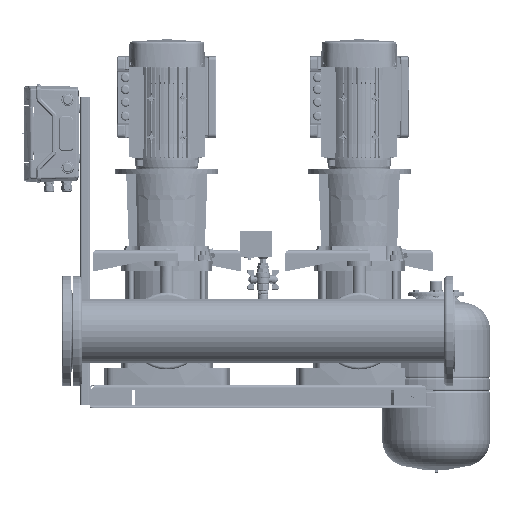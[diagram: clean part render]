
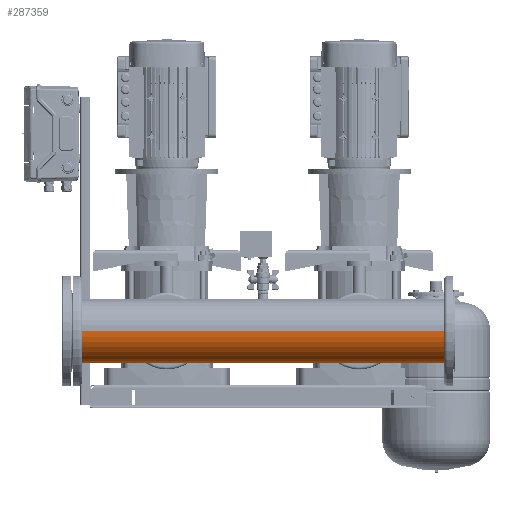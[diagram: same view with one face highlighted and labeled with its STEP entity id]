
A CAD part, front view. The second image highlights one B-rep face of the part: STEP entity #287359.
In plain terms, the highlighted cylindrical face has radius 84.15 mm (diameter 168.3 mm), a partial arc.
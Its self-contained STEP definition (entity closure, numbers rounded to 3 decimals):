
#286915=CARTESIAN_POINT('Vertex',(84.15,13.45,0.)) ;
#286922=CARTESIAN_POINT('Vertex',(84.15,-13.45,0.)) ;
#286926=CARTESIAN_POINT('Control Point',(84.15,13.45,0.)) ;
#286927=CARTESIAN_POINT('Control Point',(84.15,13.45,-2.294)) ;
#286928=CARTESIAN_POINT('Control Point',(84.072,12.961,-4.588)) ;
#286929=CARTESIAN_POINT('Control Point',(83.914,11.982,-6.738)) ;
#286930=CARTESIAN_POINT('Control Point',(83.513,9.057,-10.651)) ;
#286931=CARTESIAN_POINT('Control Point',(83.153,4.73,-12.969)) ;
#286932=CARTESIAN_POINT('Control Point',(83.036,2.218,-13.628)) ;
#286933=CARTESIAN_POINT('Control Point',(83.03,-2.819,-13.722)) ;
#286934=CARTESIAN_POINT('Control Point',(83.352,-7.382,-11.633)) ;
#286935=CARTESIAN_POINT('Control Point',(83.568,-9.344,-10.123)) ;
#286936=CARTESIAN_POINT('Control Point',(83.882,-11.727,-7.233)) ;
#286937=CARTESIAN_POINT('Control Point',(84.079,-13.004,-3.772)) ;
#286938=CARTESIAN_POINT('Control Point',(84.126,-13.301,-2.531)) ;
#286939=CARTESIAN_POINT('Control Point',(84.15,-13.45,-1.265)) ;
#286940=CARTESIAN_POINT('Control Point',(84.15,-13.45,0.)) ;
#287148=CARTESIAN_POINT('Axis2P3D Location',(0.,0.,0.)) ;
#287153=CARTESIAN_POINT('Line Origine',(84.15,0.,0.)) ;
#287157=CARTESIAN_POINT('Vertex',(84.15,205.55,0.)) ;
#287188=CARTESIAN_POINT('Vertex',(84.15,294.45,0.)) ;
#287191=CARTESIAN_POINT('Line Origine',(84.15,0.,0.)) ;
#287195=CARTESIAN_POINT('Vertex',(84.15,470.,0.)) ;
#287202=CARTESIAN_POINT('Vertex',(-84.15,470.,0.)) ;
#287205=CARTESIAN_POINT('Line Origine',(-84.15,0.,0.)) ;
#287209=CARTESIAN_POINT('Vertex',(-84.15,-470.,0.)) ;
#287216=CARTESIAN_POINT('Vertex',(84.15,-470.,0.)) ;
#287219=CARTESIAN_POINT('Line Origine',(84.15,0.,0.)) ;
#287223=CARTESIAN_POINT('Vertex',(84.15,-294.45,0.)) ;
#287254=CARTESIAN_POINT('Vertex',(84.15,-205.55,0.)) ;
#287257=CARTESIAN_POINT('Line Origine',(84.15,0.,0.)) ;
#287280=CARTESIAN_POINT('Control Point',(84.15,-205.55,0.)) ;
#287281=CARTESIAN_POINT('Control Point',(84.15,-205.55,-3.002)) ;
#287282=CARTESIAN_POINT('Control Point',(84.016,-205.803,-6.004)) ;
#287283=CARTESIAN_POINT('Control Point',(83.748,-206.31,-8.968)) ;
#287284=CARTESIAN_POINT('Control Point',(82.65,-208.419,-17.111)) ;
#287285=CARTESIAN_POINT('Control Point',(80.726,-212.326,-24.479)) ;
#287286=CARTESIAN_POINT('Control Point',(79.252,-215.497,-28.753)) ;
#287287=CARTESIAN_POINT('Control Point',(76.473,-222.162,-35.452)) ;
#287288=CARTESIAN_POINT('Control Point',(73.972,-230.372,-40.209)) ;
#287289=CARTESIAN_POINT('Control Point',(73.002,-234.259,-41.896)) ;
#287290=CARTESIAN_POINT('Control Point',(71.885,-240.535,-43.757)) ;
#287291=CARTESIAN_POINT('Control Point',(71.458,-247.08,-44.442)) ;
#287292=CARTESIAN_POINT('Control Point',(71.4,-249.36,-44.533)) ;
#287293=CARTESIAN_POINT('Control Point',(71.506,-256.235,-44.366)) ;
#287294=CARTESIAN_POINT('Control Point',(72.414,-262.951,-42.889)) ;
#287295=CARTESIAN_POINT('Control Point',(73.341,-267.228,-41.341)) ;
#287296=CARTESIAN_POINT('Control Point',(75.24,-274.026,-37.878)) ;
#287297=CARTESIAN_POINT('Control Point',(77.4,-279.873,-33.133)) ;
#287298=CARTESIAN_POINT('Control Point',(78.3,-282.109,-30.972)) ;
#287299=CARTESIAN_POINT('Control Point',(79.9,-285.835,-26.684)) ;
#287300=CARTESIAN_POINT('Control Point',(81.32,-288.853,-21.824)) ;
#287301=CARTESIAN_POINT('Control Point',(81.909,-290.063,-19.518)) ;
#287302=CARTESIAN_POINT('Control Point',(83.015,-292.28,-14.412)) ;
#287303=CARTESIAN_POINT('Control Point',(83.749,-293.691,-8.959)) ;
#287304=CARTESIAN_POINT('Control Point',(84.016,-294.197,-5.998)) ;
#287305=CARTESIAN_POINT('Control Point',(84.15,-294.45,-2.999)) ;
#287306=CARTESIAN_POINT('Control Point',(84.15,-294.45,0.)) ;
#287308=CARTESIAN_POINT('Axis2P3D Location',(0.,-470.,0.)) ;
#287313=CARTESIAN_POINT('Axis2P3D Location',(0.,470.,0.)) ;
#287319=CARTESIAN_POINT('Control Point',(84.15,294.45,0.)) ;
#287320=CARTESIAN_POINT('Control Point',(84.15,294.45,-3.002)) ;
#287321=CARTESIAN_POINT('Control Point',(84.016,294.197,-6.004)) ;
#287322=CARTESIAN_POINT('Control Point',(83.748,293.69,-8.968)) ;
#287323=CARTESIAN_POINT('Control Point',(82.65,291.581,-17.111)) ;
#287324=CARTESIAN_POINT('Control Point',(80.726,287.674,-24.479)) ;
#287325=CARTESIAN_POINT('Control Point',(79.252,284.503,-28.753)) ;
#287326=CARTESIAN_POINT('Control Point',(76.473,277.838,-35.452)) ;
#287327=CARTESIAN_POINT('Control Point',(73.972,269.628,-40.209)) ;
#287328=CARTESIAN_POINT('Control Point',(73.002,265.741,-41.896)) ;
#287329=CARTESIAN_POINT('Control Point',(71.885,259.465,-43.757)) ;
#287330=CARTESIAN_POINT('Control Point',(71.458,252.92,-44.442)) ;
#287331=CARTESIAN_POINT('Control Point',(71.4,250.64,-44.533)) ;
#287332=CARTESIAN_POINT('Control Point',(71.506,243.765,-44.366)) ;
#287333=CARTESIAN_POINT('Control Point',(72.414,237.049,-42.889)) ;
#287334=CARTESIAN_POINT('Control Point',(73.341,232.772,-41.341)) ;
#287335=CARTESIAN_POINT('Control Point',(75.24,225.974,-37.878)) ;
#287336=CARTESIAN_POINT('Control Point',(77.4,220.127,-33.133)) ;
#287337=CARTESIAN_POINT('Control Point',(78.3,217.891,-30.972)) ;
#287338=CARTESIAN_POINT('Control Point',(79.9,214.165,-26.684)) ;
#287339=CARTESIAN_POINT('Control Point',(81.32,211.147,-21.824)) ;
#287340=CARTESIAN_POINT('Control Point',(81.909,209.937,-19.518)) ;
#287341=CARTESIAN_POINT('Control Point',(83.015,207.72,-14.412)) ;
#287342=CARTESIAN_POINT('Control Point',(83.749,206.309,-8.959)) ;
#287343=CARTESIAN_POINT('Control Point',(84.016,205.803,-5.998)) ;
#287344=CARTESIAN_POINT('Control Point',(84.15,205.55,-2.999)) ;
#287345=CARTESIAN_POINT('Control Point',(84.15,205.55,0.)) ;
#287155=VECTOR('Line Direction',#287154,1.) ;
#287193=VECTOR('Line Direction',#287192,1.) ;
#287207=VECTOR('Line Direction',#287206,1.) ;
#287221=VECTOR('Line Direction',#287220,1.) ;
#287259=VECTOR('Line Direction',#287258,1.) ;
#287149=DIRECTION('Axis2P3D Direction',(0.,1.,-0.)) ;
#287150=DIRECTION('Axis2P3D XDirection',(-1.,0.,0.)) ;
#287154=DIRECTION('Vector Direction',(0.,1.,0.)) ;
#287192=DIRECTION('Vector Direction',(0.,1.,0.)) ;
#287206=DIRECTION('Vector Direction',(0.,1.,0.)) ;
#287220=DIRECTION('Vector Direction',(0.,1.,0.)) ;
#287258=DIRECTION('Vector Direction',(0.,1.,0.)) ;
#287309=DIRECTION('Axis2P3D Direction',(0.,1.,-0.)) ;
#287314=DIRECTION('Axis2P3D Direction',(0.,1.,-0.)) ;
#287151=AXIS2_PLACEMENT_3D('Cylinder Axis2P3D',#287148,#287149,#287150) ;
#287310=AXIS2_PLACEMENT_3D('Circle Axis2P3D',#287308,#287309,$) ;
#287315=AXIS2_PLACEMENT_3D('Circle Axis2P3D',#287313,#287314,$) ;
#287156=LINE('Line',#287153,#287155) ;
#287194=LINE('Line',#287191,#287193) ;
#287208=LINE('Line',#287205,#287207) ;
#287222=LINE('Line',#287219,#287221) ;
#287260=LINE('Line',#287257,#287259) ;
#287311=CIRCLE('generated circle',#287310,84.15) ;
#287316=CIRCLE('generated circle',#287315,84.15) ;
#287152=CYLINDRICAL_SURFACE('generated cylinder',#287151,84.15) ;
#286941=EDGE_CURVE('',#286916,#286923,#286925,.T.) ;
#287159=EDGE_CURVE('',#286916,#287158,#287156,.T.) ;
#287197=EDGE_CURVE('',#287189,#287196,#287194,.T.) ;
#287211=EDGE_CURVE('',#287210,#287203,#287208,.T.) ;
#287225=EDGE_CURVE('',#287217,#287224,#287222,.T.) ;
#287261=EDGE_CURVE('',#287255,#286923,#287260,.T.) ;
#287307=EDGE_CURVE('',#287255,#287224,#287279,.T.) ;
#287312=EDGE_CURVE('',#287217,#287210,#287311,.T.) ;
#287317=EDGE_CURVE('',#287196,#287203,#287316,.T.) ;
#287346=EDGE_CURVE('',#287189,#287158,#287318,.T.) ;
#287348=ORIENTED_EDGE('',*,*,#287261,.F.) ;
#287349=ORIENTED_EDGE('',*,*,#287307,.T.) ;
#287350=ORIENTED_EDGE('',*,*,#287225,.F.) ;
#287351=ORIENTED_EDGE('',*,*,#287312,.T.) ;
#287352=ORIENTED_EDGE('',*,*,#287211,.T.) ;
#287353=ORIENTED_EDGE('',*,*,#287317,.F.) ;
#287354=ORIENTED_EDGE('',*,*,#287197,.F.) ;
#287355=ORIENTED_EDGE('',*,*,#287346,.T.) ;
#287356=ORIENTED_EDGE('',*,*,#287159,.F.) ;
#287357=ORIENTED_EDGE('',*,*,#286941,.T.) ;
#287347=EDGE_LOOP('',(#287348,#287349,#287350,#287351,#287352,#287353,#287354,#287355,#287356,#287357)) ;
#286916=VERTEX_POINT('',#286915) ;
#286923=VERTEX_POINT('',#286922) ;
#287158=VERTEX_POINT('',#287157) ;
#287189=VERTEX_POINT('',#287188) ;
#287196=VERTEX_POINT('',#287195) ;
#287203=VERTEX_POINT('',#287202) ;
#287210=VERTEX_POINT('',#287209) ;
#287217=VERTEX_POINT('',#287216) ;
#287224=VERTEX_POINT('',#287223) ;
#287255=VERTEX_POINT('',#287254) ;
#287359=ADVANCED_FACE('PartBody',(#287358),#287152,.T.) ;
#286925=B_SPLINE_CURVE_WITH_KNOTS('',5,(#286926,#286927,#286928,#286929,#286930,#286931,#286932,#286933,#286934,#286935,#286936,#286937,#286938,#286939,#286940),.UNSPECIFIED.,.F.,.U.,(6,3,3,3,6),(0.,16.222,33.911,50.906,59.853),.UNSPECIFIED.) ;
#287279=B_SPLINE_CURVE_WITH_KNOTS('',5,(#287280,#287281,#287282,#287283,#287284,#287285,#287286,#287287,#287288,#287289,#287290,#287291,#287292,#287293,#287294,#287295,#287296,#287297,#287298,#287299,#287300,#287301,#287302,#287303,#287304,#287305,#287306),.UNSPECIFIED.,.F.,.U.,(6,3,3,3,3,3,3,3,6),(0.,21.226,59.746,90.173,106.258,138.671,161.447,180.249,201.454),.UNSPECIFIED.) ;
#287318=B_SPLINE_CURVE_WITH_KNOTS('',5,(#287319,#287320,#287321,#287322,#287323,#287324,#287325,#287326,#287327,#287328,#287329,#287330,#287331,#287332,#287333,#287334,#287335,#287336,#287337,#287338,#287339,#287340,#287341,#287342,#287343,#287344,#287345),.UNSPECIFIED.,.F.,.U.,(6,3,3,3,3,3,3,3,6),(0.,21.226,59.746,90.173,106.258,138.671,161.447,180.249,201.454),.UNSPECIFIED.) ;
#287358=FACE_OUTER_BOUND('',#287347,.T.) ;
